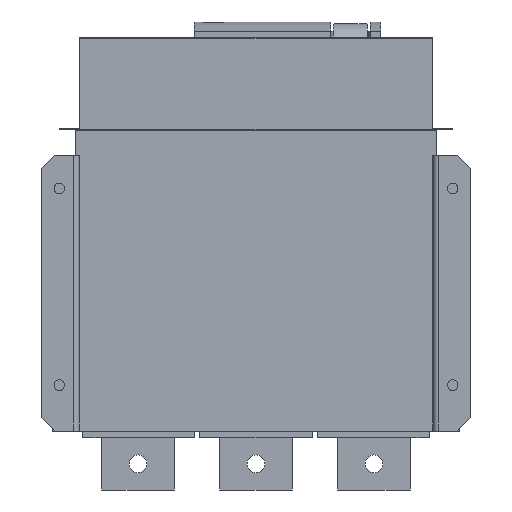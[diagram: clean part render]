
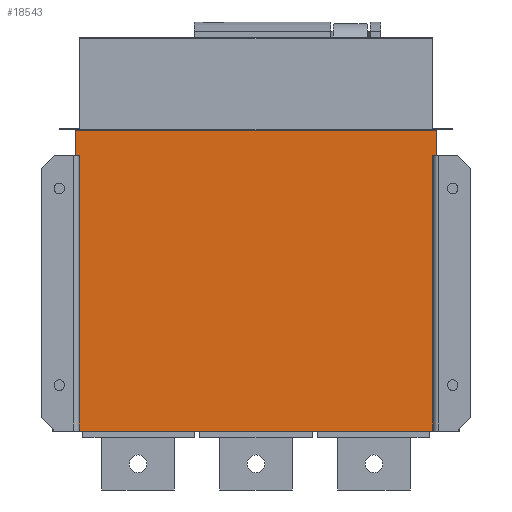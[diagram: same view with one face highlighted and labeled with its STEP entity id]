
A CAD part, front view. The second image highlights one B-rep face of the part: STEP entity #18543.
In plain terms, the highlighted planar face has unit normal (0, -1, 0).
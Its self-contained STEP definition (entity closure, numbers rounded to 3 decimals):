
#12406 = DIRECTION ( 'NONE',  ( 0., 0., 1. ) ) ;
#12407 = VECTOR ( 'NONE', #12406, 1000. ) ;
#12408 = CARTESIAN_POINT ( 'NONE',  ( 135., -185., 0. ) ) ;
#12409 = LINE ( 'NONE', #12408, #12407 ) ;
#12410 = DIRECTION ( 'NONE',  ( 0., 0., 1. ) ) ;
#12411 = VECTOR ( 'NONE', #12410, 1000. ) ;
#12412 = CARTESIAN_POINT ( 'NONE',  ( -135., -185., 0. ) ) ;
#12413 = LINE ( 'NONE', #12412, #12411 ) ;
#12414 = CARTESIAN_POINT ( 'NONE',  ( -135., -185., 210. ) ) ;
#12458 = DIRECTION ( 'NONE',  ( 1., 0., 0. ) ) ;
#12459 = VECTOR ( 'NONE', #12458, 1000. ) ;
#12460 = CARTESIAN_POINT ( 'NONE',  ( 135., -185., 210. ) ) ;
#12461 = LINE ( 'NONE', #12460, #12459 ) ;
#12463 = CARTESIAN_POINT ( 'NONE',  ( 135., -185., 210. ) ) ;
#17883 = VERTEX_POINT ( 'NONE', #45377 ) ;
#17889 = VERTEX_POINT ( 'NONE', #45513 ) ;
#17891 = EDGE_CURVE ( 'NONE', #17889, #17892, #45512, .T. ) ;
#17892 = VERTEX_POINT ( 'NONE', #45507 ) ;
#17935 = EDGE_CURVE ( 'NONE', #17883, #17936, #45705, .T. ) ;
#17936 = VERTEX_POINT ( 'NONE', #45698 ) ;
#18233 = VERTEX_POINT ( 'NONE', #37365 ) ;
#18245 = EDGE_CURVE ( 'NONE', #18246, #18233, #37413, .T. ) ;
#18246 = VERTEX_POINT ( 'NONE', #37409 ) ;
#18543 = ADVANCED_FACE ( 'NONE', ( #38298 ), #38283, .F. ) ;
#18544 = EDGE_LOOP ( 'NONE', ( #18545, #18546, #18548, #18549, #18828, #18830, #18831, #18834 ) ) ;
#18545 = ORIENTED_EDGE ( 'NONE', *, *, #17891, .F. ) ;
#18546 = ORIENTED_EDGE ( 'NONE', *, *, #18547, .T. ) ;
#18547 = EDGE_CURVE ( 'NONE', #17889, #17883, #38278, .T. ) ;
#18548 = ORIENTED_EDGE ( 'NONE', *, *, #17935, .T. ) ;
#18549 = ORIENTED_EDGE ( 'NONE', *, *, #18550, .F. ) ;
#18550 = EDGE_CURVE ( 'NONE', #18827, #17936, #38339, .T. ) ;
#18827 = VERTEX_POINT ( 'NONE', #12414 ) ;
#18828 = ORIENTED_EDGE ( 'NONE', *, *, #18829, .F. ) ;
#18829 = EDGE_CURVE ( 'NONE', #18246, #18827, #12413, .T. ) ;
#18830 = ORIENTED_EDGE ( 'NONE', *, *, #18245, .T. ) ;
#18831 = ORIENTED_EDGE ( 'NONE', *, *, #18832, .T. ) ;
#18832 = EDGE_CURVE ( 'NONE', #18233, #18833, #12409, .T. ) ;
#18833 = VERTEX_POINT ( 'NONE', #12463 ) ;
#18834 = ORIENTED_EDGE ( 'NONE', *, *, #18835, .T. ) ;
#18835 = EDGE_CURVE ( 'NONE', #18833, #17892, #12461, .T. ) ;
#37365 = CARTESIAN_POINT ( 'NONE',  ( 135., -185., 0. ) ) ;
#37409 = CARTESIAN_POINT ( 'NONE',  ( -135., -185., 0. ) ) ;
#37410 = DIRECTION ( 'NONE',  ( 1., 0., 0. ) ) ;
#37411 = VECTOR ( 'NONE', #37410, 1000. ) ;
#37412 = CARTESIAN_POINT ( 'NONE',  ( -138., -185., 0. ) ) ;
#37413 = LINE ( 'NONE', #37412, #37411 ) ;
#38278 = LINE ( 'NONE', #38342, #38341 ) ;
#38279 = DIRECTION ( 'NONE',  ( -1., 0., 0. ) ) ;
#38280 = DIRECTION ( 'NONE',  ( 0., 1., 0. ) ) ;
#38281 = CARTESIAN_POINT ( 'NONE',  ( -138., -185., 230. ) ) ;
#38282 = AXIS2_PLACEMENT_3D ( 'NONE', #38281, #38280, #38279 ) ;
#38283 = PLANE ( 'NONE',  #38282 ) ;
#38298 = FACE_OUTER_BOUND ( 'NONE', #18544, .T. ) ;
#38336 = DIRECTION ( 'NONE',  ( -1., 0., 0. ) ) ;
#38337 = VECTOR ( 'NONE', #38336, 1000. ) ;
#38338 = CARTESIAN_POINT ( 'NONE',  ( -135., -185., 210. ) ) ;
#38339 = LINE ( 'NONE', #38338, #38337 ) ;
#38340 = DIRECTION ( 'NONE',  ( -1., 0., 0. ) ) ;
#38341 = VECTOR ( 'NONE', #38340, 1000. ) ;
#38342 = CARTESIAN_POINT ( 'NONE',  ( -138., -185., 229.4 ) ) ;
#45377 = CARTESIAN_POINT ( 'NONE',  ( -138., -185., 229.4 ) ) ;
#45507 = CARTESIAN_POINT ( 'NONE',  ( 138., -185., 210. ) ) ;
#45508 = DIRECTION ( 'NONE',  ( 0., 0., -1. ) ) ;
#45510 = VECTOR ( 'NONE', #45508, 1000. ) ;
#45511 = CARTESIAN_POINT ( 'NONE',  ( 138., -185., 230. ) ) ;
#45512 = LINE ( 'NONE', #45511, #45510 ) ;
#45513 = CARTESIAN_POINT ( 'NONE',  ( 138., -185., 229.4 ) ) ;
#45698 = CARTESIAN_POINT ( 'NONE',  ( -138., -185., 210. ) ) ;
#45700 = DIRECTION ( 'NONE',  ( 0., 0., -1. ) ) ;
#45702 = VECTOR ( 'NONE', #45700, 1000. ) ;
#45703 = CARTESIAN_POINT ( 'NONE',  ( -138., -185., 230. ) ) ;
#45705 = LINE ( 'NONE', #45703, #45702 ) ;
